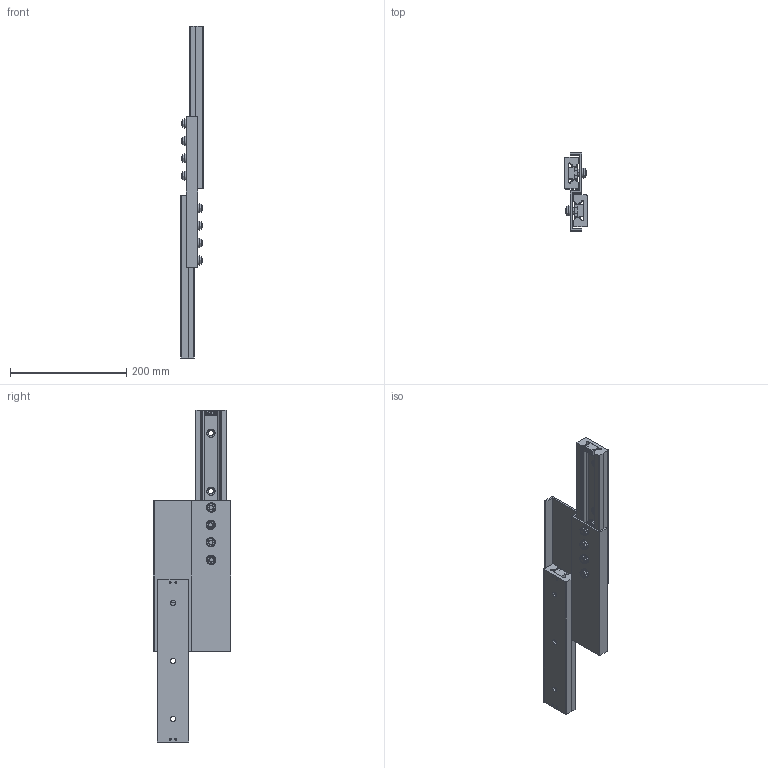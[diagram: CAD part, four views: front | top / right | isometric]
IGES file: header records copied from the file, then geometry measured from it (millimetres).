
Start section: SolidWorks IGES file using analytic representation for surfaces
Global section: file name: C:\Users\tsuch\OneDrive\デスクトップ\LSIMモジュール化図面\LSIM-DV(3D)\iges形式\LSIM55DV.IGS; native system: SolidWorks 2019; preprocessor: SolidWorks 2019; author: tsuch; date: 210614.084632; units: millimetre
Bounding box: 38.4 x 134 x 572 mm (x, y, z)
Surface area: 237081.6 mm2 (no closed solid volume)
Topology: 0 solids, 0 shells, 600 faces, 9284 edges, 9284 vertices
Faces by surface type: revolution 314, bspline 286
